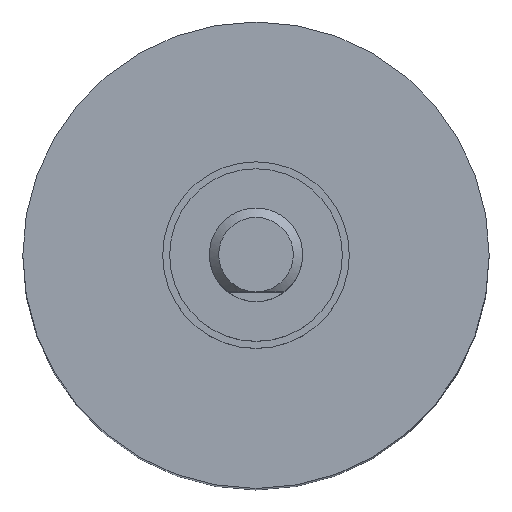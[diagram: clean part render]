
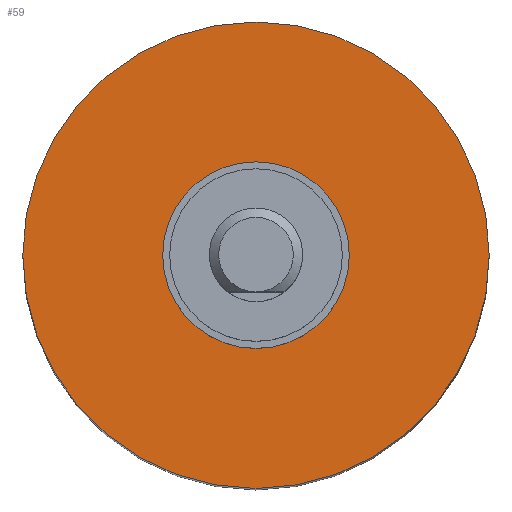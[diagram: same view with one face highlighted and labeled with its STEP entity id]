
A CAD part, top view. The second image highlights one B-rep face of the part: STEP entity #59.
In plain terms, the highlighted planar face has unit normal (0, 0, 1).
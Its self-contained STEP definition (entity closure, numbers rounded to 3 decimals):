
#37=PLANE('',#277);
#59=ADVANCED_FACE('',(#97,#98),#37,.T.);
#97=FACE_BOUND('',#128,.T.);
#98=FACE_BOUND('',#129,.T.);
#128=EDGE_LOOP('',(#169));
#129=EDGE_LOOP('',(#170));
#169=ORIENTED_EDGE('',*,*,#229,.T.);
#170=ORIENTED_EDGE('',*,*,#232,.F.);
#207=VERTEX_POINT('',#420);
#210=VERTEX_POINT('',#428);
#229=EDGE_CURVE('',#207,#207,#248,.T.);
#232=EDGE_CURVE('',#210,#210,#251,.T.);
#248=CIRCLE('',#271,2.);
#251=CIRCLE('',#276,5.);
#271=AXIS2_PLACEMENT_3D('',#419,#324,#325);
#276=AXIS2_PLACEMENT_3D('',#427,#334,#335);
#277=AXIS2_PLACEMENT_3D('',#429,#336,#337);
#324=DIRECTION('',(0.,0.,-1.));
#325=DIRECTION('',(1.,0.,0.));
#334=DIRECTION('',(0.,0.,-1.));
#335=DIRECTION('',(-1.,0.,0.));
#336=DIRECTION('',(0.,0.,1.));
#337=DIRECTION('',(1.,0.,0.));
#419=CARTESIAN_POINT('',(0.,0.,0.));
#420=CARTESIAN_POINT('',(2.,0.,0.));
#427=CARTESIAN_POINT('',(0.,0.,0.));
#428=CARTESIAN_POINT('',(-5.,0.,0.));
#429=CARTESIAN_POINT('',(0.,0.,0.));
